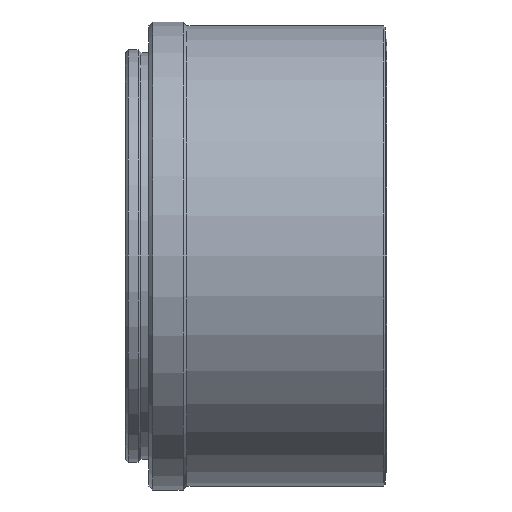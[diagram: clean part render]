
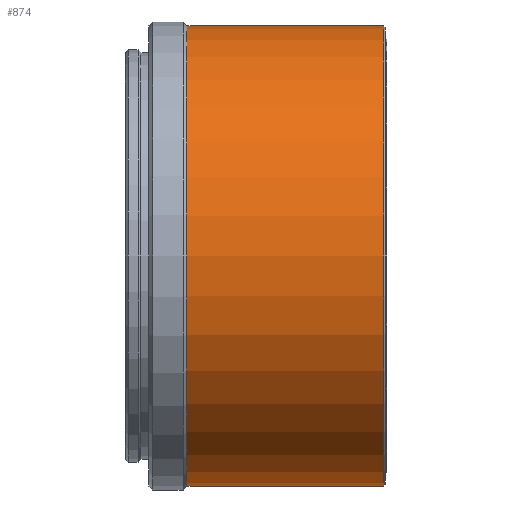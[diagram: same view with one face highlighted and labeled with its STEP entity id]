
A CAD part, front view. The second image highlights one B-rep face of the part: STEP entity #874.
In plain terms, the highlighted cylindrical face has radius 29 mm (diameter 58 mm), a partial arc.
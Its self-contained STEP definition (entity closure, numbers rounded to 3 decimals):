
#4 = CARTESIAN_POINT ( 'NONE',  ( 0., 0., -29. ) ) ;
#27 = EDGE_CURVE ( 'NONE', #354, #429, #847, .T. ) ;
#44 = AXIS2_PLACEMENT_3D ( 'NONE', #875, #297, #225 ) ;
#59 = VECTOR ( 'NONE', #131, 1000. ) ;
#93 = EDGE_LOOP ( 'NONE', ( #594, #870, #635, #143 ) ) ;
#131 = DIRECTION ( 'NONE',  ( -1., 0., 0. ) ) ;
#143 = ORIENTED_EDGE ( 'NONE', *, *, #560, .F. ) ;
#158 = DIRECTION ( 'NONE',  ( -1., 0., 0. ) ) ;
#160 = EDGE_CURVE ( 'NONE', #449, #569, #775, .T. ) ;
#168 = CIRCLE ( 'NONE', #44, 29. ) ;
#225 = DIRECTION ( 'NONE',  ( 0., 0., 1. ) ) ;
#249 = CARTESIAN_POINT ( 'NONE',  ( 0., 0., 0. ) ) ;
#292 = CIRCLE ( 'NONE', #903, 29. ) ;
#297 = DIRECTION ( 'NONE',  ( -1., 0., 0. ) ) ;
#303 = CYLINDRICAL_SURFACE ( 'NONE', #366, 29. ) ;
#339 = DIRECTION ( 'NONE',  ( 0., 0., 1. ) ) ;
#354 = VERTEX_POINT ( 'NONE', #398 ) ;
#366 = AXIS2_PLACEMENT_3D ( 'NONE', #249, #745, #339 ) ;
#398 = CARTESIAN_POINT ( 'NONE',  ( 32.6, 0., -29. ) ) ;
#429 = VERTEX_POINT ( 'NONE', #540 ) ;
#449 = VERTEX_POINT ( 'NONE', #600 ) ;
#479 = EDGE_CURVE ( 'NONE', #354, #449, #292, .T. ) ;
#540 = CARTESIAN_POINT ( 'NONE',  ( 7.8, 0., -29. ) ) ;
#555 = FACE_OUTER_BOUND ( 'NONE', #93, .T. ) ;
#560 = EDGE_CURVE ( 'NONE', #429, #569, #168, .T. ) ;
#569 = VERTEX_POINT ( 'NONE', #966 ) ;
#594 = ORIENTED_EDGE ( 'NONE', *, *, #27, .F. ) ;
#600 = CARTESIAN_POINT ( 'NONE',  ( 32.6, 0., 29. ) ) ;
#623 = CARTESIAN_POINT ( 'NONE',  ( 0., 0., 29. ) ) ;
#635 = ORIENTED_EDGE ( 'NONE', *, *, #160, .T. ) ;
#711 = CARTESIAN_POINT ( 'NONE',  ( 32.6, 0., 0. ) ) ;
#715 = DIRECTION ( 'NONE',  ( -1., 0., 0. ) ) ;
#717 = DIRECTION ( 'NONE',  ( 0., 0., 1. ) ) ;
#745 = DIRECTION ( 'NONE',  ( -1., 0., 0. ) ) ;
#775 = LINE ( 'NONE', #623, #798 ) ;
#798 = VECTOR ( 'NONE', #158, 1000. ) ;
#847 = LINE ( 'NONE', #4, #59 ) ;
#870 = ORIENTED_EDGE ( 'NONE', *, *, #479, .T. ) ;
#874 = ADVANCED_FACE ( 'NONE', ( #555 ), #303, .T. ) ;
#875 = CARTESIAN_POINT ( 'NONE',  ( 7.8, 0., 0. ) ) ;
#903 = AXIS2_PLACEMENT_3D ( 'NONE', #711, #715, #717 ) ;
#966 = CARTESIAN_POINT ( 'NONE',  ( 7.8, 0., 29. ) ) ;
